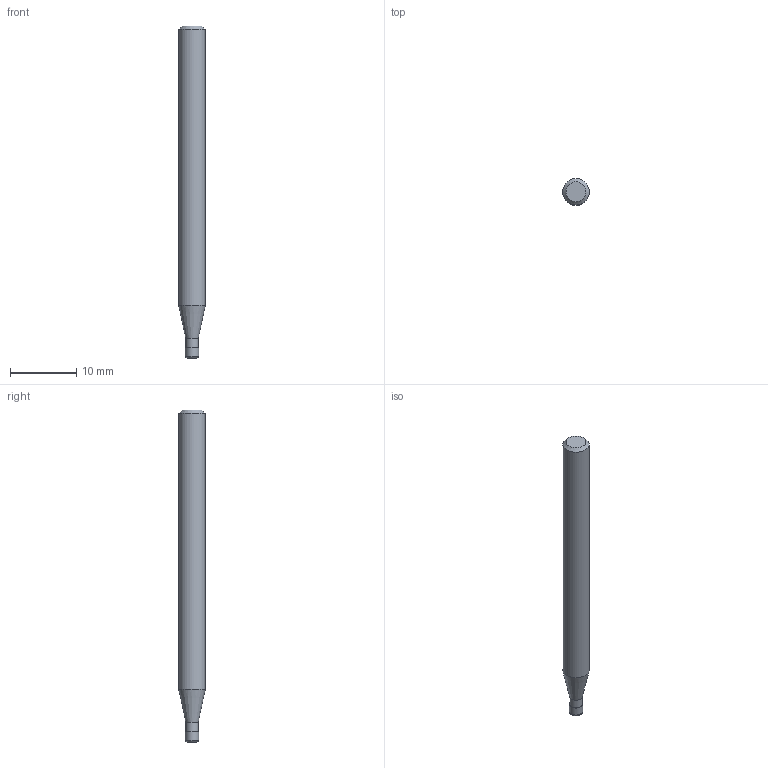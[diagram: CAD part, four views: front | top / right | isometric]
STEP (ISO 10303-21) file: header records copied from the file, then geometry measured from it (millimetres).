
FILE_DESCRIPTION((''),'2;1');
FILE_NAME('C:\Users\nsx150\AppData\Local\Temp\Mastercam 2021\CSMVKW3037\TEMP.step','2023-06-23T16:03:35',(''),(''),'STEP Write','Mastercam 2021 ... CNC Software, Inc.','');
FILE_SCHEMA(('AUTOMOTIVE_DESIGN'));
Length unit declared in the file: millimetre
Products named in the file (1): None
Bounding box: 4 x 4 x 50 mm (x, y, z)
Volume: 571.4 mm3; surface area: 610.8 mm2
Topology: 2 solids, 2 shells, 10 faces, 14 edges, 8 vertices
Faces by surface type: plane 4, cylinder 3, cone 2, torus 1
Full cylindrical faces by diameter (mm): 1.91 x1, 2 x1, 4 x1
Entity records: 232 total; most frequent: DIRECTION 40, CARTESIAN_POINT 28, AXIS2_PLACEMENT_3D 20, ORIENTED_EDGE 16, EDGE_LOOP 16, STYLED_ITEM 13, ADVANCED_FACE 10, FACE_BOUND 10
